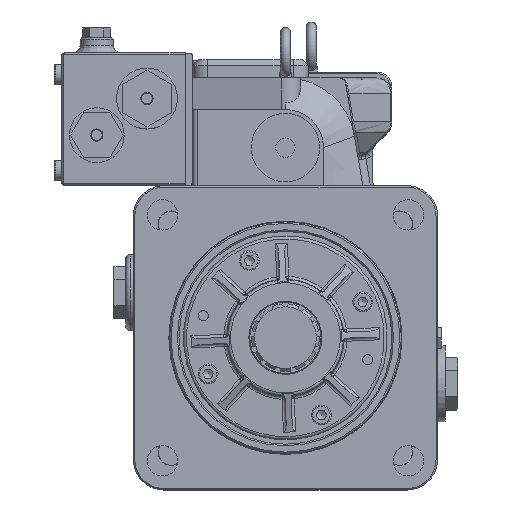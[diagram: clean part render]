
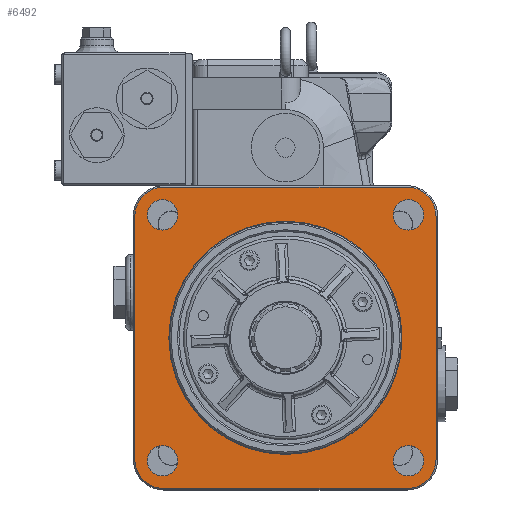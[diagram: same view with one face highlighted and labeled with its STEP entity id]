
A CAD part, top view. The second image highlights one B-rep face of the part: STEP entity #6492.
In plain terms, the highlighted planar face has unit normal (0, 0, 1).
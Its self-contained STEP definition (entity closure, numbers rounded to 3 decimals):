
#6258=CARTESIAN_POINT('',(76.6,0.,23.));
#6259=VERTEX_POINT('',#6258);
#6260=CARTESIAN_POINT('',(0.0,0.0,23.));
#6261=DIRECTION('',(0.0,0.0,1.0));
#6262=DIRECTION('',(-1.0,0.0,0.0));
#6263=AXIS2_PLACEMENT_3D('',#6260,#6261,#6262);
#6264=CIRCLE('',#6263,76.6);
#6265=EDGE_CURVE('',#6259,#6259,#6264,.T.);
#6370=CARTESIAN_POINT('',(0.,0.,23.));
#6371=DIRECTION('',(0.0,0.0,1.0));
#6372=DIRECTION('',(1.0,0.0,0.0));
#6373=AXIS2_PLACEMENT_3D('',#6370,#6371,#6372);
#6374=PLANE('',#6373);
#6375=CARTESIAN_POINT('',(-80.0,99.0,23.));
#6376=VERTEX_POINT('',#6375);
#6377=CARTESIAN_POINT('',(80.0,99.0,23.));
#6378=VERTEX_POINT('',#6377);
#6379=CARTESIAN_POINT('',(-80.0,99.0,23.));
#6380=DIRECTION('',(1.0,0.0,0.0));
#6381=VECTOR('',#6380,160.0);
#6382=LINE('',#6379,#6381);
#6383=EDGE_CURVE('',#6376,#6378,#6382,.T.);
#6384=ORIENTED_EDGE('',*,*,#6383,.F.);
#6385=CARTESIAN_POINT('',(-99.,80.0,23.));
#6386=VERTEX_POINT('',#6385);
#6387=CARTESIAN_POINT('',(-80.,80.,23.));
#6388=DIRECTION('',(0.0,0.0,-1.0));
#6389=DIRECTION('',(0.0,1.0,0.0));
#6390=AXIS2_PLACEMENT_3D('',#6387,#6388,#6389);
#6391=CIRCLE('',#6390,19.0);
#6392=EDGE_CURVE('',#6386,#6376,#6391,.T.);
#6393=ORIENTED_EDGE('',*,*,#6392,.F.);
#6394=CARTESIAN_POINT('',(-99.,-80.0,23.));
#6395=VERTEX_POINT('',#6394);
#6396=CARTESIAN_POINT('',(-99.,-80.0,23.));
#6397=DIRECTION('',(0.0,1.0,0.0));
#6398=VECTOR('',#6397,160.0);
#6399=LINE('',#6396,#6398);
#6400=EDGE_CURVE('',#6395,#6386,#6399,.T.);
#6401=ORIENTED_EDGE('',*,*,#6400,.F.);
#6402=CARTESIAN_POINT('',(-80.,-99.0,23.));
#6403=VERTEX_POINT('',#6402);
#6404=CARTESIAN_POINT('',(-80.,-80.,23.));
#6405=DIRECTION('',(0.0,0.0,-1.0));
#6406=DIRECTION('',(-1.0,0.0,0.0));
#6407=AXIS2_PLACEMENT_3D('',#6404,#6405,#6406);
#6408=CIRCLE('',#6407,19.);
#6409=EDGE_CURVE('',#6403,#6395,#6408,.T.);
#6410=ORIENTED_EDGE('',*,*,#6409,.F.);
#6411=CARTESIAN_POINT('',(80.,-99.,23.));
#6412=VERTEX_POINT('',#6411);
#6413=CARTESIAN_POINT('',(80.,-99.,23.));
#6414=DIRECTION('',(-1.0,0.0,0.0));
#6415=VECTOR('',#6414,160.);
#6416=LINE('',#6413,#6415);
#6417=EDGE_CURVE('',#6412,#6403,#6416,.T.);
#6418=ORIENTED_EDGE('',*,*,#6417,.F.);
#6419=CARTESIAN_POINT('',(99.,-80.0,23.));
#6420=VERTEX_POINT('',#6419);
#6421=CARTESIAN_POINT('',(80.,-80.,23.));
#6422=DIRECTION('',(0.0,0.0,-1.0));
#6423=DIRECTION('',(0.0,-1.0,0.0));
#6424=AXIS2_PLACEMENT_3D('',#6421,#6422,#6423);
#6425=CIRCLE('',#6424,19.);
#6426=EDGE_CURVE('',#6420,#6412,#6425,.T.);
#6427=ORIENTED_EDGE('',*,*,#6426,.F.);
#6428=CARTESIAN_POINT('',(99.,80.0,23.));
#6429=VERTEX_POINT('',#6428);
#6430=CARTESIAN_POINT('',(99.,80.0,23.));
#6431=DIRECTION('',(0.0,-1.0,0.0));
#6432=VECTOR('',#6431,160.0);
#6433=LINE('',#6430,#6432);
#6434=EDGE_CURVE('',#6429,#6420,#6433,.T.);
#6435=ORIENTED_EDGE('',*,*,#6434,.F.);
#6436=CARTESIAN_POINT('',(80.,80.,23.));
#6437=DIRECTION('',(0.0,0.0,-1.0));
#6438=DIRECTION('',(1.0,0.0,0.0));
#6439=AXIS2_PLACEMENT_3D('',#6436,#6437,#6438);
#6440=CIRCLE('',#6439,19.0);
#6441=EDGE_CURVE('',#6378,#6429,#6440,.T.);
#6442=ORIENTED_EDGE('',*,*,#6441,.F.);
#6443=EDGE_LOOP('',(#6384,#6393,#6401,#6410,#6418,#6427,#6435,#6442));
#6444=FACE_OUTER_BOUND('',#6443,.T.);
#6445=CARTESIAN_POINT('',(90.8,-80.8,23.));
#6446=VERTEX_POINT('',#6445);
#6447=CARTESIAN_POINT('',(80.8,-80.8,23.));
#6448=DIRECTION('',(0.0,0.0,-1.0));
#6449=DIRECTION('',(-1.0,0.0,0.0));
#6450=AXIS2_PLACEMENT_3D('',#6447,#6448,#6449);
#6451=CIRCLE('',#6450,10.0);
#6452=EDGE_CURVE('',#6446,#6446,#6451,.T.);
#6453=ORIENTED_EDGE('',*,*,#6452,.T.);
#6454=EDGE_LOOP('',(#6453));
#6455=FACE_BOUND('',#6454,.T.);
#6456=CARTESIAN_POINT('',(-70.8,80.8,23.));
#6457=VERTEX_POINT('',#6456);
#6458=CARTESIAN_POINT('',(-80.8,80.8,23.));
#6459=DIRECTION('',(0.0,0.0,-1.0));
#6460=DIRECTION('',(-1.0,0.0,0.0));
#6461=AXIS2_PLACEMENT_3D('',#6458,#6459,#6460);
#6462=CIRCLE('',#6461,10.0);
#6463=EDGE_CURVE('',#6457,#6457,#6462,.T.);
#6464=ORIENTED_EDGE('',*,*,#6463,.T.);
#6465=EDGE_LOOP('',(#6464));
#6466=FACE_BOUND('',#6465,.T.);
#6467=CARTESIAN_POINT('',(90.8,80.8,23.));
#6468=VERTEX_POINT('',#6467);
#6469=CARTESIAN_POINT('',(80.8,80.8,23.));
#6470=DIRECTION('',(0.0,0.0,-1.0));
#6471=DIRECTION('',(-1.0,0.0,0.0));
#6472=AXIS2_PLACEMENT_3D('',#6469,#6470,#6471);
#6473=CIRCLE('',#6472,10.0);
#6474=EDGE_CURVE('',#6468,#6468,#6473,.T.);
#6475=ORIENTED_EDGE('',*,*,#6474,.T.);
#6476=EDGE_LOOP('',(#6475));
#6477=FACE_BOUND('',#6476,.T.);
#6478=CARTESIAN_POINT('',(-70.8,-80.8,23.));
#6479=VERTEX_POINT('',#6478);
#6480=CARTESIAN_POINT('',(-80.8,-80.8,23.));
#6481=DIRECTION('',(0.0,0.0,-1.0));
#6482=DIRECTION('',(-1.0,0.0,0.0));
#6483=AXIS2_PLACEMENT_3D('',#6480,#6481,#6482);
#6484=CIRCLE('',#6483,10.0);
#6485=EDGE_CURVE('',#6479,#6479,#6484,.T.);
#6486=ORIENTED_EDGE('',*,*,#6485,.T.);
#6487=EDGE_LOOP('',(#6486));
#6488=FACE_BOUND('',#6487,.T.);
#6489=ORIENTED_EDGE('',*,*,#6265,.F.);
#6490=EDGE_LOOP('',(#6489));
#6491=FACE_BOUND('',#6490,.T.);
#6492=ADVANCED_FACE('',(#6444,#6455,#6466,#6477,#6488,#6491),#6374,.T.);
